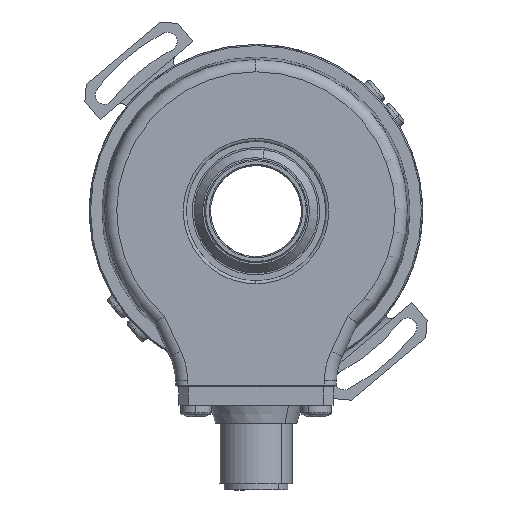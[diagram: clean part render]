
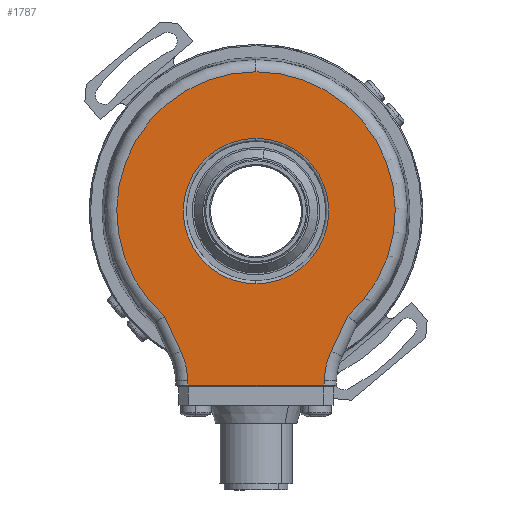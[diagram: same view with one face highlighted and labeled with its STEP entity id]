
A CAD part, left-side view. The second image highlights one B-rep face of the part: STEP entity #1787.
In plain terms, the highlighted planar face has unit normal (-1, 0, 0).
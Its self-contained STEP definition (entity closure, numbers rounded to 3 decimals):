
#1675 = EDGE_CURVE ( 'NONE', #1794, #1805, #8077, .T. ) ;
#1677 = ORIENTED_EDGE ( 'NONE', *, *, #1680, .T. ) ;
#1680 = EDGE_CURVE ( 'NONE', #1805, #1834, #8066, .T. ) ;
#1681 = ORIENTED_EDGE ( 'NONE', *, *, #1690, .T. ) ;
#1684 = ORIENTED_EDGE ( 'NONE', *, *, #1969, .T. ) ;
#1686 = ORIENTED_EDGE ( 'NONE', *, *, #1949, .T. ) ;
#1687 = ORIENTED_EDGE ( 'NONE', *, *, #1751, .T. ) ;
#1690 = EDGE_CURVE ( 'NONE', #1834, #1970, #8092, .T. ) ;
#1697 = ORIENTED_EDGE ( 'NONE', *, *, #1959, .T. ) ;
#1698 = ORIENTED_EDGE ( 'NONE', *, *, #1891, .T. ) ;
#1711 = VERTEX_POINT ( 'NONE', #8129 ) ;
#1713 = EDGE_CURVE ( 'NONE', #1714, #1711, #8128, .T. ) ;
#1714 = VERTEX_POINT ( 'NONE', #8123 ) ;
#1751 = EDGE_CURVE ( 'NONE', #1752, #1753, #8329, .T. ) ;
#1752 = VERTEX_POINT ( 'NONE', #8320 ) ;
#1753 = VERTEX_POINT ( 'NONE', #8319 ) ;
#1786 = EDGE_CURVE ( 'NONE', #1711, #1714, #8446, .T. ) ;
#1787 = ADVANCED_FACE ( 'NONE', ( #8441, #8440 ), #8425, .F. ) ;
#1788 = EDGE_LOOP ( 'NONE', ( #1790, #1791 ) ) ;
#1790 = ORIENTED_EDGE ( 'NONE', *, *, #1713, .T. ) ;
#1791 = ORIENTED_EDGE ( 'NONE', *, *, #1786, .T. ) ;
#1792 = EDGE_LOOP ( 'NONE', ( #1793, #1804, #1677, #1681, #1684, #1686, #1687, #1697, #1698 ) ) ;
#1793 = ORIENTED_EDGE ( 'NONE', *, *, #1803, .T. ) ;
#1794 = VERTEX_POINT ( 'NONE', #8424 ) ;
#1803 = EDGE_CURVE ( 'NONE', #1939, #1794, #8491, .T. ) ;
#1804 = ORIENTED_EDGE ( 'NONE', *, *, #1675, .T. ) ;
#1805 = VERTEX_POINT ( 'NONE', #8483 ) ;
#1834 = VERTEX_POINT ( 'NONE', #8578 ) ;
#1891 = EDGE_CURVE ( 'NONE', #1957, #1939, #8756, .T. ) ;
#1939 = VERTEX_POINT ( 'NONE', #8875 ) ;
#1949 = EDGE_CURVE ( 'NONE', #1967, #1752, #8679, .T. ) ;
#1957 = VERTEX_POINT ( 'NONE', #8975 ) ;
#1959 = EDGE_CURVE ( 'NONE', #1753, #1957, #8974, .T. ) ;
#1967 = VERTEX_POINT ( 'NONE', #8960 ) ;
#1969 = EDGE_CURVE ( 'NONE', #1970, #1967, #8959, .T. ) ;
#1970 = VERTEX_POINT ( 'NONE', #8955 ) ;
#8063 = DIRECTION ( 'NONE',  ( 0., -0.017, 1. ) ) ;
#8064 = VECTOR ( 'NONE', #8063, 1000. ) ;
#8065 = CARTESIAN_POINT ( 'NONE',  ( -21., -11.752, -0.205 ) ) ;
#8066 = LINE ( 'NONE', #8065, #8064 ) ;
#8074 = DIRECTION ( 'NONE',  ( 0., -1., 0. ) ) ;
#8075 = VECTOR ( 'NONE', #8074, 1000. ) ;
#8076 = CARTESIAN_POINT ( 'NONE',  ( -21., -11.25, -28.695 ) ) ;
#8077 = LINE ( 'NONE', #8076, #8075 ) ;
#8088 = DIRECTION ( 'NONE',  ( 0., 0., 1. ) ) ;
#8089 = DIRECTION ( 'NONE',  ( 1., 0., 0. ) ) ;
#8090 = CARTESIAN_POINT ( 'NONE',  ( -21., -23.266, -28.183 ) ) ;
#8091 = AXIS2_PLACEMENT_3D ( 'NONE', #8090, #8089, #8088 ) ;
#8092 = CIRCLE ( 'NONE', #8091, 12. ) ;
#8123 = CARTESIAN_POINT ( 'NONE',  ( -21., 0., 12. ) ) ;
#8124 = DIRECTION ( 'NONE',  ( 0., 0., 1. ) ) ;
#8125 = DIRECTION ( 'NONE',  ( 1., 0., 0. ) ) ;
#8126 = CARTESIAN_POINT ( 'NONE',  ( -21., 0., 0. ) ) ;
#8127 = AXIS2_PLACEMENT_3D ( 'NONE', #8126, #8125, #8124 ) ;
#8128 = CIRCLE ( 'NONE', #8127, 12. ) ;
#8129 = CARTESIAN_POINT ( 'NONE',  ( -21., 0., -12. ) ) ;
#8319 = CARTESIAN_POINT ( 'NONE',  ( -21., 15.091, -17.32 ) ) ;
#8320 = CARTESIAN_POINT ( 'NONE',  ( -21., 0., 22.972 ) ) ;
#8321 = DIRECTION ( 'NONE',  ( 0., 0., 1. ) ) ;
#8322 = DIRECTION ( 'NONE',  ( -1., 0., 0. ) ) ;
#8323 = CARTESIAN_POINT ( 'NONE',  ( -21., 0., 0. ) ) ;
#8324 = AXIS2_PLACEMENT_3D ( 'NONE', #8323, #8322, #8321 ) ;
#8329 = CIRCLE ( 'NONE', #8324, 22.972 ) ;
#8420 = DIRECTION ( 'NONE',  ( 0., 0., 1. ) ) ;
#8421 = DIRECTION ( 'NONE',  ( 1., 0., 0. ) ) ;
#8422 = CARTESIAN_POINT ( 'NONE',  ( -21., 0., 0. ) ) ;
#8423 = AXIS2_PLACEMENT_3D ( 'NONE', #8422, #8421, #8420 ) ;
#8424 = CARTESIAN_POINT ( 'NONE',  ( -21., 11.255, -28.695 ) ) ;
#8425 = PLANE ( 'NONE',  #8423 ) ;
#8440 = FACE_OUTER_BOUND ( 'NONE', #1792, .T. ) ;
#8441 = FACE_BOUND ( 'NONE', #1788, .T. ) ;
#8442 = DIRECTION ( 'NONE',  ( 0., 0., 1. ) ) ;
#8443 = DIRECTION ( 'NONE',  ( 1., 0., 0. ) ) ;
#8444 = CARTESIAN_POINT ( 'NONE',  ( -21., 0., 0. ) ) ;
#8445 = AXIS2_PLACEMENT_3D ( 'NONE', #8444, #8443, #8442 ) ;
#8446 = CIRCLE ( 'NONE', #8445, 12. ) ;
#8483 = CARTESIAN_POINT ( 'NONE',  ( -21., -11.255, -28.695 ) ) ;
#8488 = DIRECTION ( 'NONE',  ( 0., -0.017, -1. ) ) ;
#8489 = VECTOR ( 'NONE', #8488, 1000. ) ;
#8490 = CARTESIAN_POINT ( 'NONE',  ( -21., 11.752, -0.205 ) ) ;
#8491 = LINE ( 'NONE', #8490, #8489 ) ;
#8578 = CARTESIAN_POINT ( 'NONE',  ( -21., -11.268, -27.974 ) ) ;
#8679 = CIRCLE ( 'NONE', #8951, 22.972 ) ;
#8752 = DIRECTION ( 'NONE',  ( 0., 0., 1. ) ) ;
#8753 = DIRECTION ( 'NONE',  ( 1., 0., 0. ) ) ;
#8754 = CARTESIAN_POINT ( 'NONE',  ( -21., 23.266, -28.183 ) ) ;
#8755 = AXIS2_PLACEMENT_3D ( 'NONE', #8754, #8753, #8752 ) ;
#8756 = CIRCLE ( 'NONE', #8755, 12. ) ;
#8875 = CARTESIAN_POINT ( 'NONE',  ( -21., 11.268, -27.974 ) ) ;
#8948 = DIRECTION ( 'NONE',  ( 0., 0., 1. ) ) ;
#8949 = DIRECTION ( 'NONE',  ( -1., 0., 0. ) ) ;
#8950 = CARTESIAN_POINT ( 'NONE',  ( -21., 0., 0. ) ) ;
#8951 = AXIS2_PLACEMENT_3D ( 'NONE', #8950, #8949, #8948 ) ;
#8955 = CARTESIAN_POINT ( 'NONE',  ( -21., -12.39, -23.112 ) ) ;
#8956 = DIRECTION ( 'NONE',  ( 0., -0.423, 0.906 ) ) ;
#8957 = VECTOR ( 'NONE', #8956, 1000. ) ;
#8958 = CARTESIAN_POINT ( 'NONE',  ( -21., -14.953, -17.615 ) ) ;
#8959 = LINE ( 'NONE', #8958, #8957 ) ;
#8960 = CARTESIAN_POINT ( 'NONE',  ( -21., -15.091, -17.32 ) ) ;
#8971 = DIRECTION ( 'NONE',  ( 0., -0.423, -0.906 ) ) ;
#8972 = VECTOR ( 'NONE', #8971, 1000. ) ;
#8973 = CARTESIAN_POINT ( 'NONE',  ( -21., 12.39, -23.112 ) ) ;
#8974 = LINE ( 'NONE', #8973, #8972 ) ;
#8975 = CARTESIAN_POINT ( 'NONE',  ( -21., 12.39, -23.112 ) ) ;
